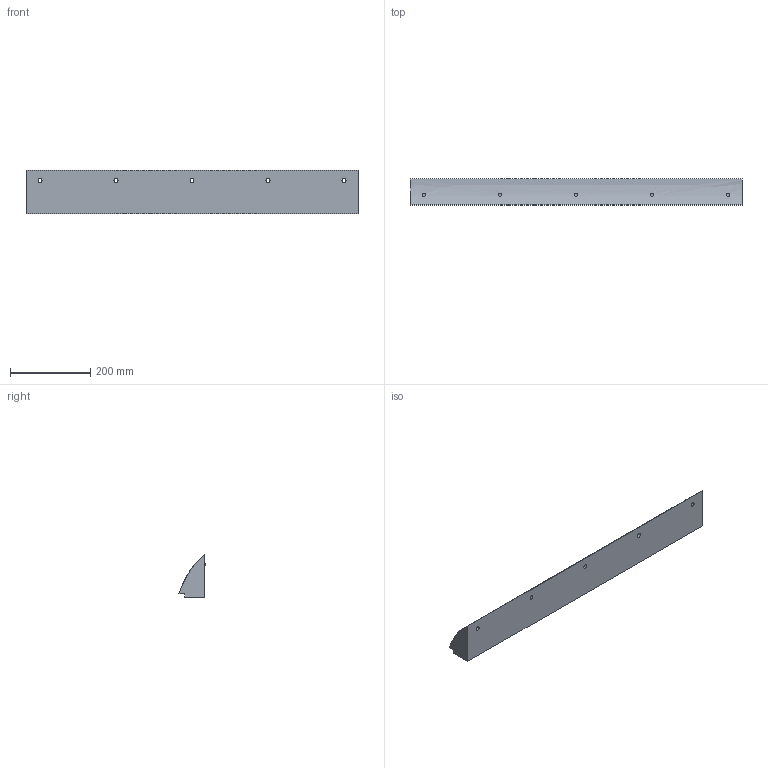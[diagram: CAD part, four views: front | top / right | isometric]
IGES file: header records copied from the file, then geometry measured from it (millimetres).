
Global section: file name: raio 2.igs; native system: NX V2312; preprocessor: SIEMENS PLM Software NX2312.5001; date: 20240809.190914; units: millimetre
Bounding box: 830 x 65 x 108.09 mm (x, y, z)
Surface area: 262832 mm2 (no closed solid volume)
Topology: 0 solids, 0 shells, 12 faces, 167 edges, 157 vertices
Faces by surface type: bspline 12
